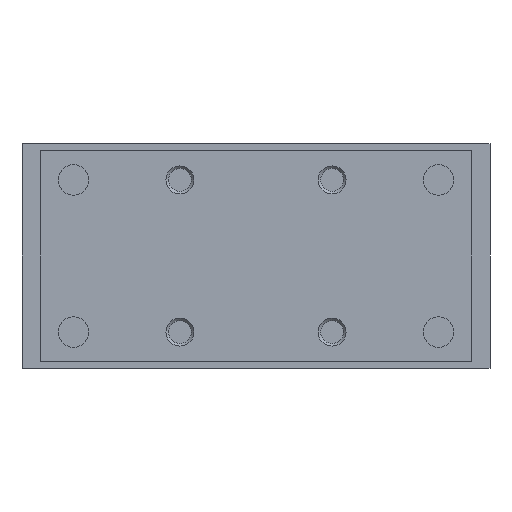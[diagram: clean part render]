
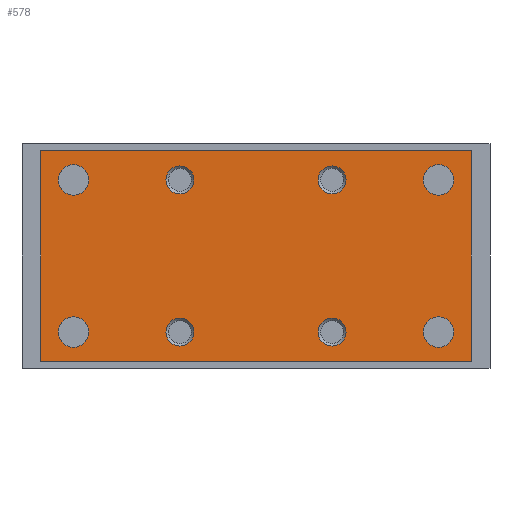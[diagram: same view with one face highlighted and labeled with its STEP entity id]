
A CAD part, left-side view. The second image highlights one B-rep face of the part: STEP entity #578.
In plain terms, the highlighted planar face has unit normal (-1, 0, 0).
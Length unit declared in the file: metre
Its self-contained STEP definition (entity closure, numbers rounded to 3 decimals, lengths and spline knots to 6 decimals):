
#578 = ADVANCED_FACE( '', ( #1323, #1324, #1325, #1326, #1327, #1328, #1329, #1330, #1331 ), #1332, .T. );
#1323 = FACE_BOUND( '', #2143, .T. );
#1324 = FACE_BOUND( '', #2144, .T. );
#1325 = FACE_BOUND( '', #2145, .T. );
#1326 = FACE_BOUND( '', #2146, .T. );
#1327 = FACE_BOUND( '', #2147, .T. );
#1328 = FACE_BOUND( '', #2148, .T. );
#1329 = FACE_BOUND( '', #2149, .T. );
#1330 = FACE_BOUND( '', #2150, .T. );
#1331 = FACE_OUTER_BOUND( '', #2151, .T. );
#1332 = PLANE( '', #2152 );
#2143 = EDGE_LOOP( '', ( #3493 ) );
#2144 = EDGE_LOOP( '', ( #3494 ) );
#2145 = EDGE_LOOP( '', ( #3495 ) );
#2146 = EDGE_LOOP( '', ( #3496 ) );
#2147 = EDGE_LOOP( '', ( #3497 ) );
#2148 = EDGE_LOOP( '', ( #3498 ) );
#2149 = EDGE_LOOP( '', ( #3499 ) );
#2150 = EDGE_LOOP( '', ( #3500 ) );
#2151 = EDGE_LOOP( '', ( #3501, #3502, #3503, #3504 ) );
#2152 = AXIS2_PLACEMENT_3D( '', #3505, #3506, #3507 );
#3493 = ORIENTED_EDGE( '', *, *, #4100, .F. );
#3494 = ORIENTED_EDGE( '', *, *, #3789, .F. );
#3495 = ORIENTED_EDGE( '', *, *, #4259, .F. );
#3496 = ORIENTED_EDGE( '', *, *, #3778, .F. );
#3497 = ORIENTED_EDGE( '', *, *, #4147, .T. );
#3498 = ORIENTED_EDGE( '', *, *, #4230, .F. );
#3499 = ORIENTED_EDGE( '', *, *, #3879, .F. );
#3500 = ORIENTED_EDGE( '', *, *, #4260, .T. );
#3501 = ORIENTED_EDGE( '', *, *, #4214, .T. );
#3502 = ORIENTED_EDGE( '', *, *, #3992, .T. );
#3503 = ORIENTED_EDGE( '', *, *, #4183, .T. );
#3504 = ORIENTED_EDGE( '', *, *, #4254, .T. );
#3505 = CARTESIAN_POINT( '', ( -0.06225, -0.046, -0.0015 ) );
#3506 = DIRECTION( '', ( -1., 0., 0. ) );
#3507 = DIRECTION( '', ( 0., 0., 1. ) );
#3778 = EDGE_CURVE( '', #4317, #4317, #4318, .T. );
#3789 = EDGE_CURVE( '', #4336, #4336, #4337, .T. );
#3879 = EDGE_CURVE( '', #4490, #4490, #4491, .T. );
#3992 = EDGE_CURVE( '', #4666, #4664, #4667, .T. );
#4100 = EDGE_CURVE( '', #4821, #4821, #4822, .T. );
#4147 = EDGE_CURVE( '', #4887, #4887, #4888, .T. );
#4183 = EDGE_CURVE( '', #4664, #4937, #4939, .T. );
#4214 = EDGE_CURVE( '', #4982, #4666, #4983, .T. );
#4230 = EDGE_CURVE( '', #5001, #5001, #5002, .T. );
#4254 = EDGE_CURVE( '', #4937, #4982, #5028, .T. );
#4259 = EDGE_CURVE( '', #5033, #5033, #5034, .T. );
#4260 = EDGE_CURVE( '', #5035, #5035, #5036, .T. );
#4317 = VERTEX_POINT( '', #5100 );
#4318 = CIRCLE( '', #5101, 0.00325 );
#4336 = VERTEX_POINT( '', #5156 );
#4337 = CIRCLE( '', #5157, 0.00325 );
#4490 = VERTEX_POINT( '', #5345 );
#4491 = CIRCLE( '', #5346, 0.003 );
#4664 = VERTEX_POINT( '', #5598 );
#4666 = VERTEX_POINT( '', #5601 );
#4667 = LINE( '', #5602, #5603 );
#4821 = VERTEX_POINT( '', #5816 );
#4822 = CIRCLE( '', #5817, 0.00325 );
#4887 = VERTEX_POINT( '', #5924 );
#4888 = CIRCLE( '', #5925, 0.003 );
#4937 = VERTEX_POINT( '', #6017 );
#4939 = LINE( '', #6020, #6021 );
#4982 = VERTEX_POINT( '', #6069 );
#4983 = LINE( '', #6070, #6071 );
#5001 = VERTEX_POINT( '', #6090 );
#5002 = CIRCLE( '', #6091, 0.003 );
#5028 = LINE( '', #6150, #6151 );
#5033 = VERTEX_POINT( '', #6157 );
#5034 = CIRCLE( '', #6158, 0.00325 );
#5035 = VERTEX_POINT( '', #6159 );
#5036 = CIRCLE( '', #6160, 0.003 );
#5100 = CARTESIAN_POINT( '', ( -0.06225, 0.03575, -0.00775 ) );
#5101 = AXIS2_PLACEMENT_3D( '', #6219, #6220, #6221 );
#5156 = CARTESIAN_POINT( '', ( -0.06225, 0.03575, -0.04025 ) );
#5157 = AXIS2_PLACEMENT_3D( '', #6232, #6233, #6234 );
#5345 = CARTESIAN_POINT( '', ( -0.06225, -0.01625, -0.01075 ) );
#5346 = AXIS2_PLACEMENT_3D( '', #6363, #6364, #6365 );
#5598 = CARTESIAN_POINT( '', ( -0.06225, 0.046, -0.0015 ) );
#5601 = CARTESIAN_POINT( '', ( -0.06225, -0.046, -0.0015 ) );
#5602 = CARTESIAN_POINT( '', ( -0.06225, -0.046, -0.0015 ) );
#5603 = VECTOR( '', #6503, 1. );
#5816 = CARTESIAN_POINT( '', ( -0.06225, -0.04225, -0.04025 ) );
#5817 = AXIS2_PLACEMENT_3D( '', #6638, #6639, #6640 );
#5924 = CARTESIAN_POINT( '', ( -0.06225, -0.01625, -0.03725 ) );
#5925 = AXIS2_PLACEMENT_3D( '', #6695, #6696, #6697 );
#6017 = CARTESIAN_POINT( '', ( -0.06225, 0.046, -0.0465 ) );
#6020 = CARTESIAN_POINT( '', ( -0.06225, 0.046, -0.0015 ) );
#6021 = VECTOR( '', #6736, 1. );
#6069 = CARTESIAN_POINT( '', ( -0.06225, -0.046, -0.0465 ) );
#6070 = CARTESIAN_POINT( '', ( -0.06225, -0.046, -0.0465 ) );
#6071 = VECTOR( '', #6775, 1. );
#6090 = CARTESIAN_POINT( '', ( -0.06225, 0.01625, -0.03725 ) );
#6091 = AXIS2_PLACEMENT_3D( '', #6792, #6793, #6794 );
#6150 = CARTESIAN_POINT( '', ( -0.06225, 0.046, -0.0465 ) );
#6151 = VECTOR( '', #6813, 1. );
#6157 = CARTESIAN_POINT( '', ( -0.06225, -0.04225, -0.00775 ) );
#6158 = AXIS2_PLACEMENT_3D( '', #6815, #6816, #6817 );
#6159 = CARTESIAN_POINT( '', ( -0.06225, 0.01625, -0.01075 ) );
#6160 = AXIS2_PLACEMENT_3D( '', #6818, #6819, #6820 );
#6219 = CARTESIAN_POINT( '', ( -0.06225, 0.039, -0.00775 ) );
#6220 = DIRECTION( '', ( -1., 0., 0. ) );
#6221 = DIRECTION( '', ( 0., -1., 0. ) );
#6232 = CARTESIAN_POINT( '', ( -0.06225, 0.039, -0.04025 ) );
#6233 = DIRECTION( '', ( -1., 0., 0. ) );
#6234 = DIRECTION( '', ( 0., -1., 0. ) );
#6363 = CARTESIAN_POINT( '', ( -0.06225, -0.01625, -0.00775 ) );
#6364 = DIRECTION( '', ( -1., 0., 0. ) );
#6365 = DIRECTION( '', ( 0., 0., -1. ) );
#6503 = DIRECTION( '', ( 0., 1., 0. ) );
#6638 = CARTESIAN_POINT( '', ( -0.06225, -0.039, -0.04025 ) );
#6639 = DIRECTION( '', ( -1., 0., 0. ) );
#6640 = DIRECTION( '', ( 0., -1., 0. ) );
#6695 = CARTESIAN_POINT( '', ( -0.06225, -0.01625, -0.04025 ) );
#6696 = DIRECTION( '', ( 1., 0., 0. ) );
#6697 = DIRECTION( '', ( 0., 0., 1. ) );
#6736 = DIRECTION( '', ( 0., 0., -1. ) );
#6775 = DIRECTION( '', ( 0., 0., 1. ) );
#6792 = CARTESIAN_POINT( '', ( -0.06225, 0.01625, -0.04025 ) );
#6793 = DIRECTION( '', ( -1., 0., 0. ) );
#6794 = DIRECTION( '', ( 0., 0., 1. ) );
#6813 = DIRECTION( '', ( 0., -1., 0. ) );
#6815 = CARTESIAN_POINT( '', ( -0.06225, -0.039, -0.00775 ) );
#6816 = DIRECTION( '', ( -1., 0., 0. ) );
#6817 = DIRECTION( '', ( 0., -1., 0. ) );
#6818 = CARTESIAN_POINT( '', ( -0.06225, 0.01625, -0.00775 ) );
#6819 = DIRECTION( '', ( 1., 0., 0. ) );
#6820 = DIRECTION( '', ( 0., 0., -1. ) );
